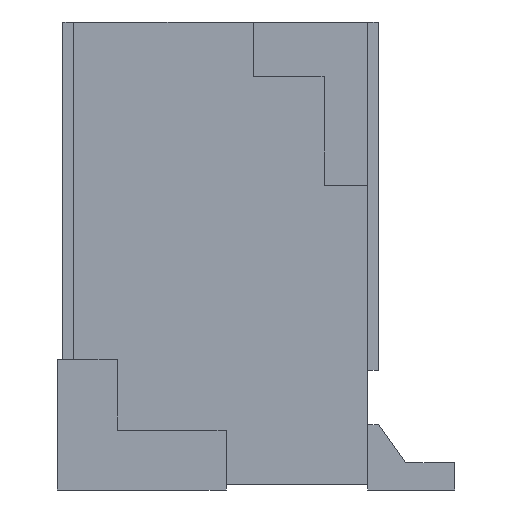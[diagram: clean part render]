
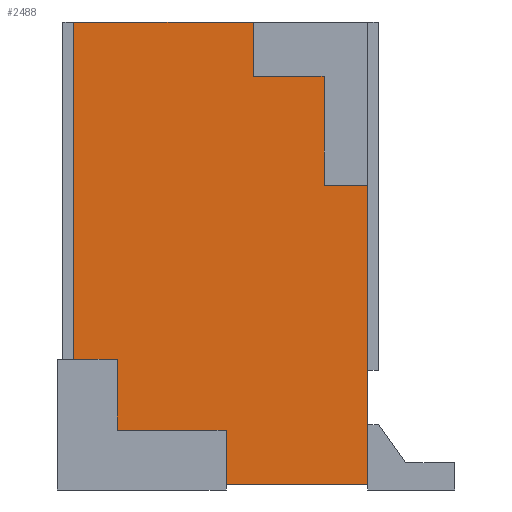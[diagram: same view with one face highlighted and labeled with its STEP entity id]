
A CAD part, left-side view. The second image highlights one B-rep face of the part: STEP entity #2488.
In plain terms, the highlighted planar face has unit normal (-1, 0, 0).
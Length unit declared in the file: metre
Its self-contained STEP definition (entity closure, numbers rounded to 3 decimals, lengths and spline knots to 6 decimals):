
#358=ORIENTED_EDGE('',*,*,#826,.F.);
#359=ORIENTED_EDGE('',*,*,#930,.F.);
#360=ORIENTED_EDGE('',*,*,#895,.T.);
#361=ORIENTED_EDGE('',*,*,#987,.T.);
#362=ORIENTED_EDGE('',*,*,#988,.T.);
#363=ORIENTED_EDGE('',*,*,#989,.T.);
#364=ORIENTED_EDGE('',*,*,#990,.T.);
#365=ORIENTED_EDGE('',*,*,#962,.T.);
#366=ORIENTED_EDGE('',*,*,#991,.T.);
#367=ORIENTED_EDGE('',*,*,#992,.F.);
#368=ORIENTED_EDGE('',*,*,#993,.F.);
#369=ORIENTED_EDGE('',*,*,#994,.F.);
#826=EDGE_CURVE('',#1172,#1173,#1398,.T.);
#895=EDGE_CURVE('',#1240,#1239,#1467,.T.);
#930=EDGE_CURVE('',#1240,#1172,#1502,.T.);
#962=EDGE_CURVE('',#1274,#1273,#1534,.T.);
#987=EDGE_CURVE('',#1239,#1295,#1559,.T.);
#988=EDGE_CURVE('',#1295,#1296,#1560,.T.);
#989=EDGE_CURVE('',#1296,#1297,#1561,.T.);
#990=EDGE_CURVE('',#1297,#1274,#1562,.T.);
#991=EDGE_CURVE('',#1273,#1298,#1563,.T.);
#992=EDGE_CURVE('',#1299,#1298,#1564,.T.);
#993=EDGE_CURVE('',#1300,#1299,#1565,.T.);
#994=EDGE_CURVE('',#1173,#1300,#1566,.T.);
#1172=VERTEX_POINT('',#3876);
#1173=VERTEX_POINT('',#3878);
#1239=VERTEX_POINT('',#4021);
#1240=VERTEX_POINT('',#4023);
#1273=VERTEX_POINT('',#4143);
#1274=VERTEX_POINT('',#4145);
#1295=VERTEX_POINT('',#4193);
#1296=VERTEX_POINT('',#4195);
#1297=VERTEX_POINT('',#4197);
#1298=VERTEX_POINT('',#4200);
#1299=VERTEX_POINT('',#4202);
#1300=VERTEX_POINT('',#4204);
#1398=LINE('',#3877,#1744);
#1467=LINE('',#4022,#1813);
#1502=LINE('',#4086,#1848);
#1534=LINE('',#4144,#1880);
#1559=LINE('',#4192,#1905);
#1560=LINE('',#4194,#1906);
#1561=LINE('',#4196,#1907);
#1562=LINE('',#4198,#1908);
#1563=LINE('',#4199,#1909);
#1564=LINE('',#4201,#1910);
#1565=LINE('',#4203,#1911);
#1566=LINE('',#4205,#1912);
#1744=VECTOR('',#3223,1.);
#1813=VECTOR('',#3310,1.);
#1848=VECTOR('',#3365,1.);
#1880=VECTOR('',#3419,1.);
#1905=VECTOR('',#3448,1.);
#1906=VECTOR('',#3449,1.);
#1907=VECTOR('',#3450,1.);
#1908=VECTOR('',#3451,1.);
#1909=VECTOR('',#3452,1.);
#1910=VECTOR('',#3453,1.);
#1911=VECTOR('',#3454,1.);
#1912=VECTOR('',#3455,1.);
#2086=EDGE_LOOP('',(#358,#359,#360,#361,#362,#363,#364,#365,#366,#367,#368,
#369));
#2226=FACE_BOUND('',#2086,.T.);
#2357=PLANE('',#3065);
#2488=ADVANCED_FACE('',(#2226),#2357,.T.);
#3065=AXIS2_PLACEMENT_3D('',#4191,#3446,#3447);
#3223=DIRECTION('',(0.,0.,1.));
#3310=DIRECTION('',(0.,0.,1.));
#3365=DIRECTION('',(0.,1.,0.));
#3419=DIRECTION('',(0.,1.,0.));
#3446=DIRECTION('',(-1.,0.,0.));
#3447=DIRECTION('',(0.,0.,-1.));
#3448=DIRECTION('',(0.,1.,0.));
#3449=DIRECTION('',(0.,0.,1.));
#3450=DIRECTION('',(0.,1.,0.));
#3451=DIRECTION('',(0.,0.,1.));
#3452=DIRECTION('',(0.,0.,-1.));
#3453=DIRECTION('',(0.,1.,0.));
#3454=DIRECTION('',(0.,0.,1.));
#3455=DIRECTION('',(0.,1.,0.));
#3876=CARTESIAN_POINT('',(-0.003,-0.00005,0.));
#3877=CARTESIAN_POINT('',(-0.003,-0.00005,0.00025));
#3878=CARTESIAN_POINT('',(-0.003,-0.00005,0.0005));
#4021=CARTESIAN_POINT('',(-0.003,-0.00135,0.00275));
#4022=CARTESIAN_POINT('',(-0.003,-0.00135,0.002125));
#4023=CARTESIAN_POINT('',(-0.003,-0.00135,0.));
#4086=CARTESIAN_POINT('',(-0.003,0.,0.));
#4143=CARTESIAN_POINT('',(-0.003,0.00135,0.00425));
#4144=CARTESIAN_POINT('',(-0.003,0.,0.00425));
#4145=CARTESIAN_POINT('',(-0.003,-0.0003,0.00425));
#4191=CARTESIAN_POINT('',(-0.003,0.,0.00425));
#4192=CARTESIAN_POINT('',(-0.003,-0.0012,0.00275));
#4193=CARTESIAN_POINT('',(-0.003,-0.00095,0.00275));
#4194=CARTESIAN_POINT('',(-0.003,-0.00095,0.00325));
#4195=CARTESIAN_POINT('',(-0.003,-0.00095,0.00375));
#4196=CARTESIAN_POINT('',(-0.003,-0.000625,0.00375));
#4197=CARTESIAN_POINT('',(-0.003,-0.0003,0.00375));
#4198=CARTESIAN_POINT('',(-0.003,-0.0003,0.004));
#4199=CARTESIAN_POINT('',(-0.003,0.00135,0.00425));
#4200=CARTESIAN_POINT('',(-0.003,0.00135,0.00115));
#4201=CARTESIAN_POINT('',(-0.003,0.0012,0.00115));
#4202=CARTESIAN_POINT('',(-0.003,0.00095,0.00115));
#4203=CARTESIAN_POINT('',(-0.003,0.00095,0.000825));
#4204=CARTESIAN_POINT('',(-0.003,0.00095,0.0005));
#4205=CARTESIAN_POINT('',(-0.003,0.00045,0.0005));
